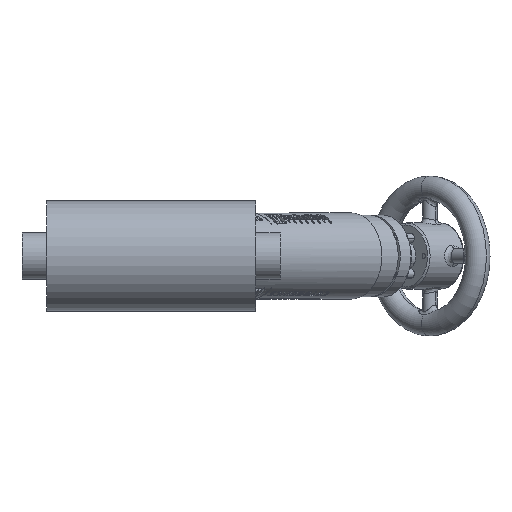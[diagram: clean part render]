
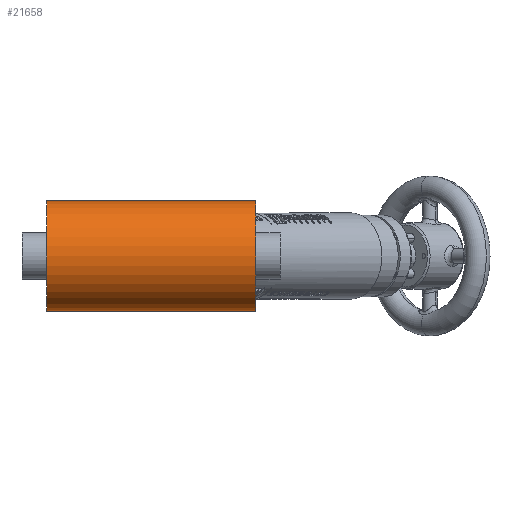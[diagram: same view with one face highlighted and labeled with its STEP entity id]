
A CAD part, front view. The second image highlights one B-rep face of the part: STEP entity #21658.
In plain terms, the highlighted cylindrical face has radius 57.15 mm (diameter 114.3 mm), a partial arc.
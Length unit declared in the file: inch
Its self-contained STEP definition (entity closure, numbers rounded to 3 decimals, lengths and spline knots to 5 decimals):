
#2358 = DIRECTION ( 'NONE',  ( 1., 0., 0. ) ) ;
#3365 = LINE ( 'NONE', #45856, #12155 ) ;
#4602 = CARTESIAN_POINT ( 'NONE',  ( 5.69, 0., -2.25 ) ) ;
#5281 = ORIENTED_EDGE ( 'NONE', *, *, #59248, .F. ) ;
#8104 = EDGE_CURVE ( 'NONE', #44883, #46212, #3365, .T. ) ;
#11690 = CARTESIAN_POINT ( 'NONE',  ( 5.69, 0., 0. ) ) ;
#12155 = VECTOR ( 'NONE', #36162, 39.37008 ) ;
#14939 = EDGE_LOOP ( 'NONE', ( #5281, #53113, #29789, #23309 ) ) ;
#16217 = CARTESIAN_POINT ( 'NONE',  ( 12.05396, 0., -2.25 ) ) ;
#19191 = AXIS2_PLACEMENT_3D ( 'NONE', #41373, #50437, #60145 ) ;
#21368 = DIRECTION ( 'NONE',  ( 0., 0., 1. ) ) ;
#21658 = ADVANCED_FACE ( 'NONE', ( #31352 ), #51656, .T. ) ;
#23309 = ORIENTED_EDGE ( 'NONE', *, *, #55005, .F. ) ;
#23992 = CIRCLE ( 'NONE', #33995, 2.25 ) ;
#25144 = CIRCLE ( 'NONE', #43111, 2.25 ) ;
#28884 = EDGE_CURVE ( 'NONE', #44883, #57092, #23992, .T. ) ;
#29216 = CARTESIAN_POINT ( 'NONE',  ( 5.69, 0., 2.25 ) ) ;
#29789 = ORIENTED_EDGE ( 'NONE', *, *, #8104, .T. ) ;
#31352 = FACE_OUTER_BOUND ( 'NONE', #14939, .T. ) ;
#31529 = DIRECTION ( 'NONE',  ( 0., 0., 1. ) ) ;
#31845 = DIRECTION ( 'NONE',  ( -1., 0., 0. ) ) ;
#33995 = AXIS2_PLACEMENT_3D ( 'NONE', #11690, #2358, #21368 ) ;
#36162 = DIRECTION ( 'NONE',  ( -1., 0., 0. ) ) ;
#36853 = CARTESIAN_POINT ( 'NONE',  ( -2.81, 0., 0. ) ) ;
#37318 = CARTESIAN_POINT ( 'NONE',  ( -2.81, 0., 2.25 ) ) ;
#41373 = CARTESIAN_POINT ( 'NONE',  ( 12.05396, 0., 0. ) ) ;
#41779 = VECTOR ( 'NONE', #54357, 39.37008 ) ;
#43111 = AXIS2_PLACEMENT_3D ( 'NONE', #36853, #31845, #31529 ) ;
#44883 = VERTEX_POINT ( 'NONE', #29216 ) ;
#44976 = LINE ( 'NONE', #16217, #41779 ) ;
#45856 = CARTESIAN_POINT ( 'NONE',  ( 12.05396, 0., 2.25 ) ) ;
#46212 = VERTEX_POINT ( 'NONE', #37318 ) ;
#50437 = DIRECTION ( 'NONE',  ( -1., 0., 0. ) ) ;
#51656 = CYLINDRICAL_SURFACE ( 'NONE', #19191, 2.25 ) ;
#53113 = ORIENTED_EDGE ( 'NONE', *, *, #28884, .F. ) ;
#54357 = DIRECTION ( 'NONE',  ( -1., 0., 0. ) ) ;
#55005 = EDGE_CURVE ( 'NONE', #57499, #46212, #25144, .T. ) ;
#56970 = CARTESIAN_POINT ( 'NONE',  ( -2.81, 0., -2.25 ) ) ;
#57092 = VERTEX_POINT ( 'NONE', #4602 ) ;
#57499 = VERTEX_POINT ( 'NONE', #56970 ) ;
#59248 = EDGE_CURVE ( 'NONE', #57092, #57499, #44976, .T. ) ;
#60145 = DIRECTION ( 'NONE',  ( 0., 0., 1. ) ) ;
